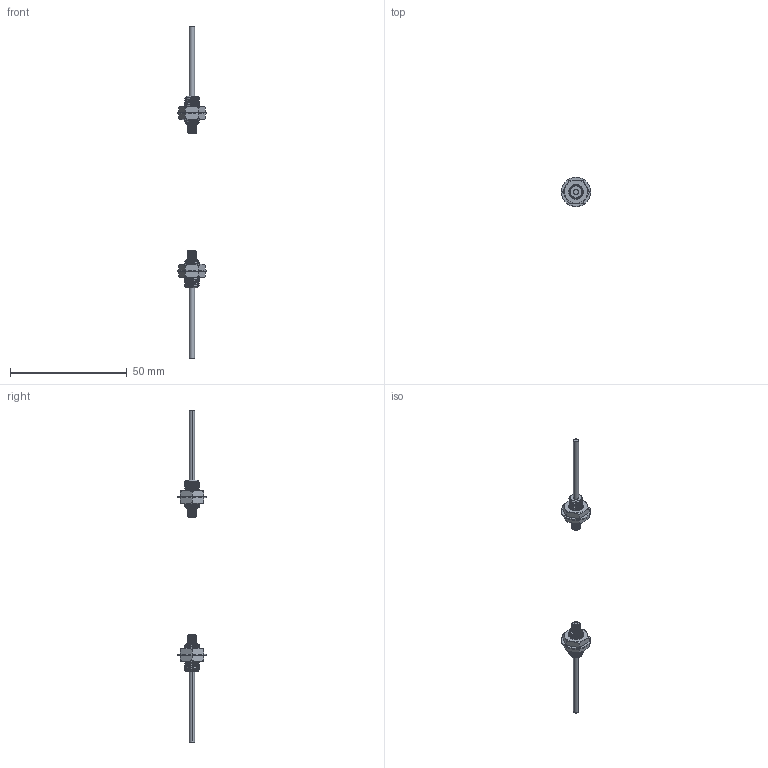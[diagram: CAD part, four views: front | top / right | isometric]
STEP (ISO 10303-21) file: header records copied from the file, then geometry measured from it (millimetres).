
FILE_DESCRIPTION (( 'STEP AP203' ), '1' );
FILE_NAME ('FQ-71.STEP', '2020-11-03T07:05:43', ( '' ), ( '' ), 'SwSTEP 2.0', 'SolidWorks 2020', '' );
FILE_SCHEMA (( 'CONFIG_CONTROL_DESIGN' ));
Length unit declared in the file: millimetre
Products named in the file (7): FQ-71_T; FQ-71_R; M6蹟譫x2.5.5.5; FQ-71; M6菜えx1x1x1
Assembly tree (10 placements, depth 3):
  FQ-71
    FQ-71_T
      FQ-71_T
      M6菜えx1x1x1
      M6蹟譫x2.5.5.5  x2
    FQ-71_R
      FQ-71_R
      M6蹟譫x2.5.5.5  x2
      M6菜えx1x1x1
Bounding box: 12.5 x 12.5 x 142 mm (x, y, z)
Volume: 1601.8 mm3; surface area: 2789.9 mm2
Topology: 8 solids, 8 shells, 242 faces, 638 edges, 420 vertices
Faces by surface type: cylinder 126, plane 48, cone 36, bspline 24, torus 8
Entity records: 15505 total; most frequent: CARTESIAN_POINT 11256, ORIENTED_EDGE 862, DIRECTION 579, EDGE_CURVE 431, VERTEX_POINT 286, AXIS2_PLACEMENT_3D 225, EDGE_LOOP 173, ADVANCED_FACE 161
